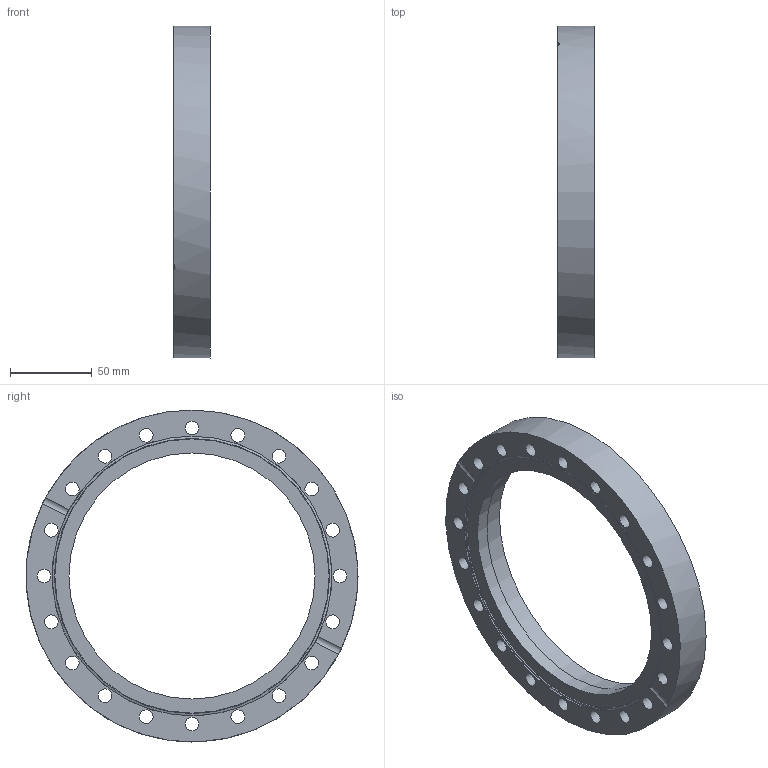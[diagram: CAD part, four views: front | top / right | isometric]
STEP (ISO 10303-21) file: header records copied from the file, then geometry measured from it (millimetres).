
FILE_DESCRIPTION( ( 'Unknown' ), '1' );
FILE_NAME( 'X:/Daten ( aktueller Bestand )/Projekte und Zeichnungen/Solid Edge/15 CF Bauteile/CF-Schweißflansch, fest/7515F.stp', 'Unknown', ( 'Unknown' ), ( 'Unknown' ), 'XStep 1.0', 'Unknown', ' ' );
FILE_SCHEMA( ( 'automotive_design' ) );
Length unit declared in the file: millimetre
Products named in the file (1): 1
Bounding box: 22.3 x 203 x 203 mm (x, y, z)
Volume: 281726.6 mm3; surface area: 63900.3 mm2
Topology: 1 solids, 1 shells, 33 faces, 108 edges, 78 vertices
Faces by surface type: cylinder 26, plane 5, cone 2
Full cylindrical faces by diameter (mm): 8.4 x20, 150.5 x1, 154.5 x1, 171 x1, 203 x1
Entity records: 1334 total; most frequent: CARTESIAN_POINT 218, DIRECTION 176, ORIENTED_EDGE 120, EDGE_LOOP 102, AXIS2_PLACEMENT_3D 86, EDGE_CURVE 60, FACE_OUTER_BOUND 57, VERTEX_POINT 56
